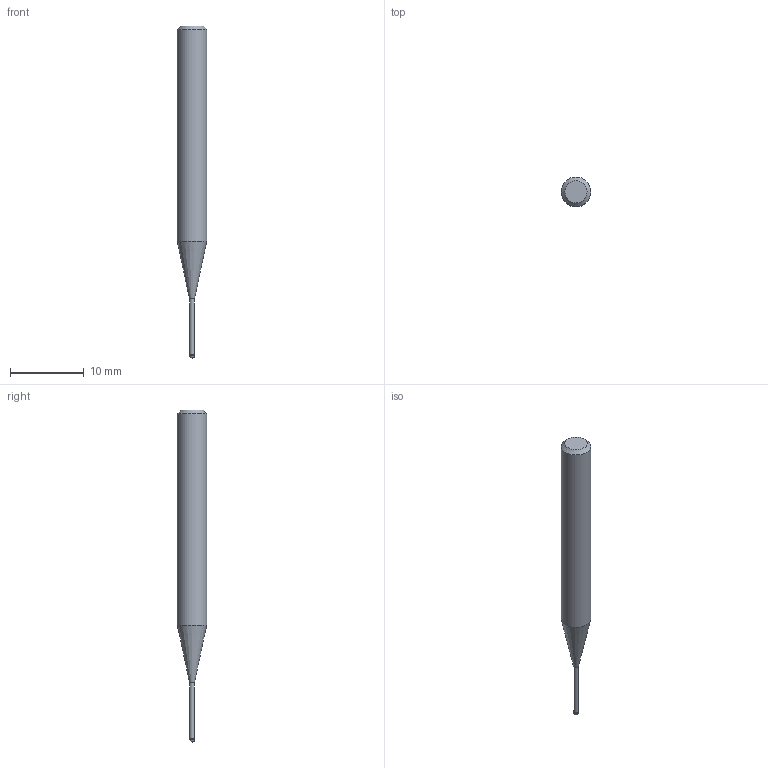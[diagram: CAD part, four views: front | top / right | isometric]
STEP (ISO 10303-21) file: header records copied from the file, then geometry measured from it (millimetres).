
FILE_DESCRIPTION((''),'2;1');
FILE_NAME('C:\Users\nsx150\AppData\Local\Temp\Mastercam 2021\ARV7HD45SN\TEMP.step','2023-06-13T16:34:35',(''),(''),'STEP Write','Mastercam 2021 ... CNC Software, Inc.','');
FILE_SCHEMA(('AUTOMOTIVE_DESIGN'));
Length unit declared in the file: millimetre
Products named in the file (1): None
Bounding box: 4 x 4 x 45 mm (x, y, z)
Volume: 406.7 mm3; surface area: 451 mm2
Topology: 2 solids, 2 shells, 9 faces, 14 edges, 8 vertices
Faces by surface type: plane 3, cylinder 3, cone 2, sphere 1
Full cylindrical faces by diameter (mm): 0.66 x1, 0.7 x1, 4 x1
Entity records: 211 total; most frequent: DIRECTION 36, CARTESIAN_POINT 25, AXIS2_PLACEMENT_3D 18, ORIENTED_EDGE 14, EDGE_LOOP 14, STYLED_ITEM 12, ADVANCED_FACE 9, FACE_BOUND 8
